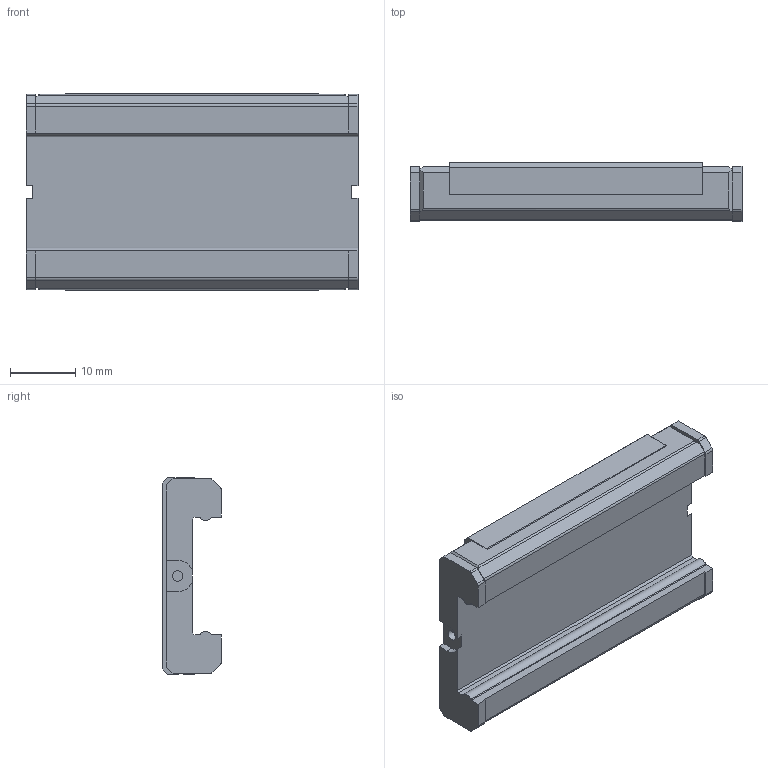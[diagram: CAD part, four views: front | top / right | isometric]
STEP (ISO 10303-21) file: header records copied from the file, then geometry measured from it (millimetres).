
FILE_DESCRIPTION(/* description */ ('STEP AP214'),/* implementation_level */ '2;1');
FILE_NAME(/* name */ 'SRS9WNUU(GK) BLOCK(1)',/* time_stamp */ '2023-06-01T09:54:13+02:00',/* author */ ('License CC BY-ND 4.0'),/* organization */ ('CADENAS'),/* preprocessor_version */ 'ST-DEVELOPER v19.3',/* originating_system */ 'PARTsolutions',/* authorisation */ ' ');
FILE_SCHEMA (('AUTOMOTIVE_DESIGN {1 0 10303 214 3 1 1}'));
Length unit declared in the file: millimetre
Products named in the file (2): SRS9WNUU(GK) BLOCK(1); SRS9WNUU1 S
Assembly tree (1 placements, depth 2):
  SRS9WNUU(GK) BLOCK(1)
    SRS9WNUU1 S
Bounding box: 50.7 x 9 x 30 mm (x, y, z)
Volume: 8984.1 mm3; surface area: 4791.2 mm2
Topology: 1 solids, 1 shells, 112 faces, 304 edges, 196 vertices
Faces by surface type: plane 75, cylinder 29, cone 8
Full cylindrical faces by diameter (mm): 1.6 x2, 2.459 x4
Entity records: 3417 total; most frequent: CARTESIAN_POINT 588, DIRECTION 576, ORIENTED_EDGE 564, EDGE_CURVE 282, LINE 216, VECTOR 216, VERTEX_POINT 192, AXIS2_PLACEMENT_3D 180
